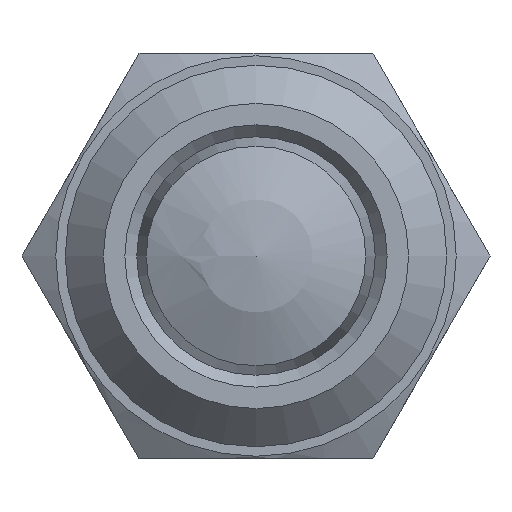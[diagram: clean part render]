
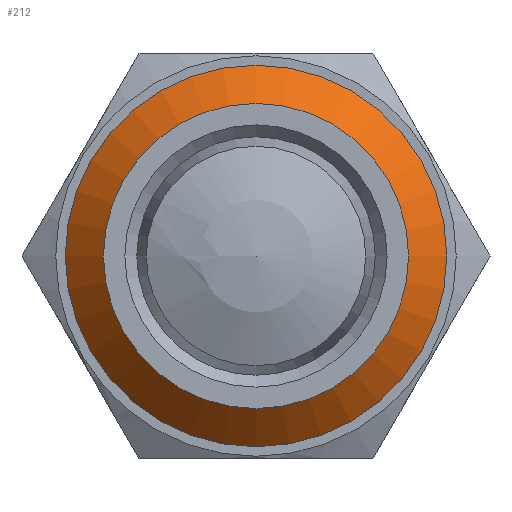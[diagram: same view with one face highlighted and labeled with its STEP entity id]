
A CAD part, front view. The second image highlights one B-rep face of the part: STEP entity #212.
In plain terms, the highlighted conical face has half-angle 45 degrees and reference radius 8 mm.
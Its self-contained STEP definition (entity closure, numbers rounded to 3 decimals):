
#212 = ADVANCED_FACE( '', ( #255, #256 ), #257, .T. );
#255 = FACE_BOUND( '', #348, .T. );
#256 = FACE_OUTER_BOUND( '', #349, .T. );
#257 = CONICAL_SURFACE( '', #350, 8., 0.785 );
#348 = EDGE_LOOP( '', ( #469 ) );
#349 = EDGE_LOOP( '', ( #470 ) );
#350 = AXIS2_PLACEMENT_3D( '', #471, #472, #473 );
#469 = ORIENTED_EDGE( '', *, *, #630, .F. );
#470 = ORIENTED_EDGE( '', *, *, #631, .T. );
#471 = CARTESIAN_POINT( '', ( 0., 1.6, 0. ) );
#472 = DIRECTION( '', ( 0., 1., 0. ) );
#473 = DIRECTION( '', ( -1., 0., 0. ) );
#630 = EDGE_CURVE( '', #688, #688, #689, .T. );
#631 = EDGE_CURVE( '', #690, #690, #691, .T. );
#688 = VERTEX_POINT( '', #878 );
#689 = CIRCLE( '', #879, 6.4 );
#690 = VERTEX_POINT( '', #880 );
#691 = CIRCLE( '', #881, 8. );
#878 = CARTESIAN_POINT( '', ( 6.4, 0., 0. ) );
#879 = AXIS2_PLACEMENT_3D( '', #958, #959, #960 );
#880 = CARTESIAN_POINT( '', ( 8., 1.6, 0. ) );
#881 = AXIS2_PLACEMENT_3D( '', #961, #962, #963 );
#958 = CARTESIAN_POINT( '', ( 0., 0., 0. ) );
#959 = DIRECTION( '', ( 0., -1., 0. ) );
#960 = DIRECTION( '', ( 1., 0., 0. ) );
#961 = CARTESIAN_POINT( '', ( 0., 1.6, 0. ) );
#962 = DIRECTION( '', ( 0., -1., 0. ) );
#963 = DIRECTION( '', ( 1., 0., 0. ) );
